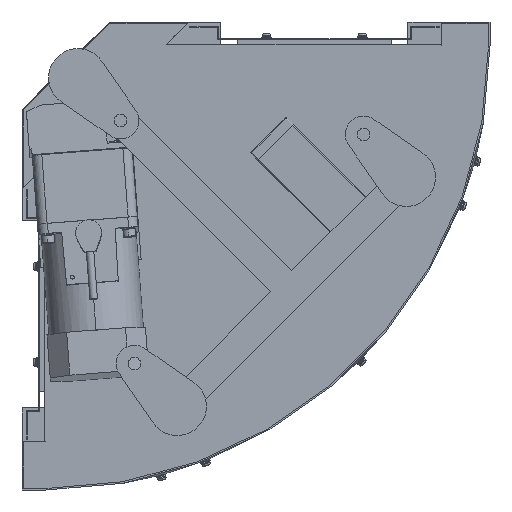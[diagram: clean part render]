
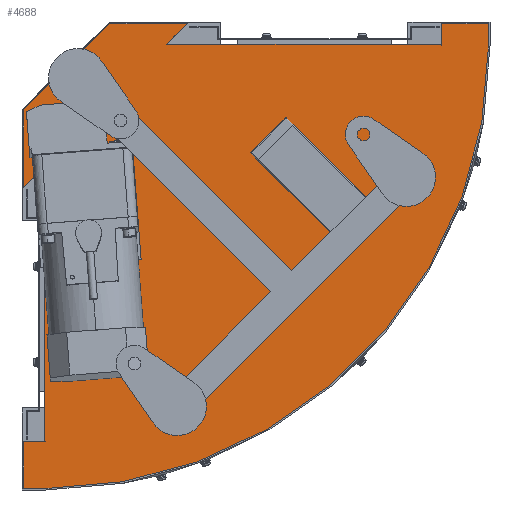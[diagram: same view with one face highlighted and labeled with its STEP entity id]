
A CAD part, front view. The second image highlights one B-rep face of the part: STEP entity #4688.
In plain terms, the highlighted planar face has unit normal (0, -1, 0).
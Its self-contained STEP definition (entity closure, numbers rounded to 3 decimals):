
#347 = CARTESIAN_POINT ( 'NONE',  ( 412.496, -145.7, 1.846 ) ) ;
#628 = AXIS2_PLACEMENT_3D ( 'NONE', #19235, #19555, #16721 ) ;
#645 = EDGE_CURVE ( 'NONE', #24916, #4860, #16226, .T. ) ;
#769 = DIRECTION ( 'NONE',  ( 0., 0., -1. ) ) ;
#879 = DIRECTION ( 'NONE',  ( 0., -1., 0. ) ) ;
#909 = CARTESIAN_POINT ( 'NONE',  ( -23.4, -145.7, -412.5 ) ) ;
#1216 = VERTEX_POINT ( 'NONE', #15780 ) ;
#1312 = DIRECTION ( 'NONE',  ( 0., 0., 1. ) ) ;
#1425 = VERTEX_POINT ( 'NONE', #22696 ) ;
#1851 = CARTESIAN_POINT ( 'NONE',  ( 125.898, -145.7, 1.798 ) ) ;
#1863 = ORIENTED_EDGE ( 'NONE', *, *, #20459, .T. ) ;
#2083 = ORIENTED_EDGE ( 'NONE', *, *, #8326, .T. ) ;
#2667 = EDGE_CURVE ( 'NONE', #28639, #7340, #14838, .T. ) ;
#2740 = DIRECTION ( 'NONE',  ( 0., 0., -1. ) ) ;
#3028 = EDGE_CURVE ( 'NONE', #17337, #5665, #5403, .T. ) ;
#3130 = LINE ( 'NONE', #26881, #33322 ) ;
#3379 = CARTESIAN_POINT ( 'NONE',  ( -23.4, -145.7, -412.5 ) ) ;
#3763 = VERTEX_POINT ( 'NONE', #11473 ) ;
#3852 = DIRECTION ( 'NONE',  ( 0., 0., 1. ) ) ;
#3960 = CARTESIAN_POINT ( 'NONE',  ( 412.5, -145.7, 0. ) ) ;
#4324 = CARTESIAN_POINT ( 'NONE',  ( 66.663, -145.7, 23.4 ) ) ;
#4441 = EDGE_CURVE ( 'NONE', #25769, #28639, #20479, .T. ) ;
#4688 = ADVANCED_FACE ( 'NONE', ( #11851 ), #26586, .F. ) ;
#4860 = VERTEX_POINT ( 'NONE', #28813 ) ;
#4905 = DIRECTION ( 'NONE',  ( 1., 0., 0. ) ) ;
#5084 = DIRECTION ( 'NONE',  ( 1., 0., 0. ) ) ;
#5369 = CARTESIAN_POINT ( 'NONE',  ( -1.846, -145.7, -412.496 ) ) ;
#5403 = LINE ( 'NONE', #20667, #24197 ) ;
#5505 = DIRECTION ( 'NONE',  ( 0., 0., 1. ) ) ;
#5665 = VERTEX_POINT ( 'NONE', #4324 ) ;
#5909 = CARTESIAN_POINT ( 'NONE',  ( -23.4, -145.7, -147.5 ) ) ;
#6204 = EDGE_CURVE ( 'NONE', #19441, #25171, #18752, .T. ) ;
#6382 = DIRECTION ( 'NONE',  ( 0., 0., 1. ) ) ;
#6511 = ORIENTED_EDGE ( 'NONE', *, *, #3028, .T. ) ;
#6830 = CARTESIAN_POINT ( 'NONE',  ( -23.4, -145.7, -461.5 ) ) ;
#6948 = ORIENTED_EDGE ( 'NONE', *, *, #33574, .T. ) ;
#7055 = ORIENTED_EDGE ( 'NONE', *, *, #23222, .T. ) ;
#7131 = DIRECTION ( 'NONE',  ( 0., 0., 1. ) ) ;
#7340 = VERTEX_POINT ( 'NONE', #3960 ) ;
#7793 = CARTESIAN_POINT ( 'NONE',  ( 412.5, -145.7, 23.4 ) ) ;
#8317 = EDGE_CURVE ( 'NONE', #1216, #11137, #13192, .T. ) ;
#8326 = EDGE_CURVE ( 'NONE', #1216, #10064, #15661, .T. ) ;
#8410 = ORIENTED_EDGE ( 'NONE', *, *, #25993, .T. ) ;
#9029 = ORIENTED_EDGE ( 'NONE', *, *, #10300, .F. ) ;
#9273 = VECTOR ( 'NONE', #5084, 1000. ) ;
#9331 = DIRECTION ( 'NONE',  ( 0., 1., 0. ) ) ;
#9826 = DIRECTION ( 'NONE',  ( 0., 0., -1. ) ) ;
#9884 = DIRECTION ( 'NONE',  ( 0.707, 0., 0.707 ) ) ;
#10064 = VERTEX_POINT ( 'NONE', #909 ) ;
#10300 = EDGE_CURVE ( 'NONE', #11137, #1425, #22855, .T. ) ;
#10735 = DIRECTION ( 'NONE',  ( -1., 0., 0. ) ) ;
#10831 = DIRECTION ( 'NONE',  ( 0., 1., 0. ) ) ;
#11137 = VERTEX_POINT ( 'NONE', #5369 ) ;
#11473 = CARTESIAN_POINT ( 'NONE',  ( -23.4, -145.7, -66.663 ) ) ;
#11575 = DIRECTION ( 'NONE',  ( -0.707, 0., -0.707 ) ) ;
#11682 = LINE ( 'NONE', #20889, #17861 ) ;
#11851 = FACE_OUTER_BOUND ( 'NONE', #28688, .T. ) ;
#12560 = EDGE_CURVE ( 'NONE', #3763, #12720, #11682, .T. ) ;
#12720 = VERTEX_POINT ( 'NONE', #5909 ) ;
#13192 = CIRCLE ( 'NONE', #18475, 412.5 ) ;
#13612 = LINE ( 'NONE', #3379, #19333 ) ;
#14279 = ORIENTED_EDGE ( 'NONE', *, *, #645, .T. ) ;
#14687 = DIRECTION ( 'NONE',  ( -1., 0., 0. ) ) ;
#14838 = CIRCLE ( 'NONE', #628, 412.5 ) ;
#15020 = VECTOR ( 'NONE', #9884, 1000. ) ;
#15193 = VECTOR ( 'NONE', #19210, 1000. ) ;
#15380 = EDGE_CURVE ( 'NONE', #25171, #7340, #19399, .T. ) ;
#15661 = LINE ( 'NONE', #22223, #32341 ) ;
#15780 = CARTESIAN_POINT ( 'NONE',  ( 0., -145.7, -412.5 ) ) ;
#15849 = LINE ( 'NONE', #17794, #15020 ) ;
#15920 = VECTOR ( 'NONE', #7131, 1000. ) ;
#16226 = LINE ( 'NONE', #18030, #9273 ) ;
#16688 = AXIS2_PLACEMENT_3D ( 'NONE', #19250, #879, #1312 ) ;
#16721 = DIRECTION ( 'NONE',  ( 0., 0., 1. ) ) ;
#17337 = VERTEX_POINT ( 'NONE', #28800 ) ;
#17513 = CARTESIAN_POINT ( 'NONE',  ( 412.5, -145.7, 23.4 ) ) ;
#17794 = CARTESIAN_POINT ( 'NONE',  ( -23.4, -145.7, -147.5 ) ) ;
#17802 = EDGE_CURVE ( 'NONE', #4860, #18845, #30279, .T. ) ;
#17861 = VECTOR ( 'NONE', #2740, 1000. ) ;
#18030 = CARTESIAN_POINT ( 'NONE',  ( -23.4, -145.7, -461.5 ) ) ;
#18097 = CARTESIAN_POINT ( 'NONE',  ( 461.5, -145.7, 23.4 ) ) ;
#18148 = LINE ( 'NONE', #23539, #31152 ) ;
#18169 = ORIENTED_EDGE ( 'NONE', *, *, #17802, .T. ) ;
#18211 = DIRECTION ( 'NONE',  ( -1., 0., 0. ) ) ;
#18475 = AXIS2_PLACEMENT_3D ( 'NONE', #22113, #9331, #3852 ) ;
#18752 = LINE ( 'NONE', #18097, #31746 ) ;
#18845 = VERTEX_POINT ( 'NONE', #23485 ) ;
#19210 = DIRECTION ( 'NONE',  ( 0.707, 0., 0.707 ) ) ;
#19235 = CARTESIAN_POINT ( 'NONE',  ( 0., -145.7, 0. ) ) ;
#19250 = CARTESIAN_POINT ( 'NONE',  ( 0., -145.7, 0. ) ) ;
#19333 = VECTOR ( 'NONE', #769, 1000. ) ;
#19399 = LINE ( 'NONE', #17513, #30401 ) ;
#19441 = VERTEX_POINT ( 'NONE', #30213 ) ;
#19555 = DIRECTION ( 'NONE',  ( 0., 1., 0. ) ) ;
#19667 = VECTOR ( 'NONE', #4905, 1000. ) ;
#19932 = ORIENTED_EDGE ( 'NONE', *, *, #15380, .T. ) ;
#20459 = EDGE_CURVE ( 'NONE', #5665, #3763, #3130, .T. ) ;
#20479 = LINE ( 'NONE', #1851, #19667 ) ;
#20667 = CARTESIAN_POINT ( 'NONE',  ( 147.5, -145.7, 23.4 ) ) ;
#20732 = AXIS2_PLACEMENT_3D ( 'NONE', #23957, #10831, #6382 ) ;
#20889 = CARTESIAN_POINT ( 'NONE',  ( -23.4, -145.7, -66.663 ) ) ;
#21027 = EDGE_CURVE ( 'NONE', #25769, #17337, #21327, .T. ) ;
#21327 = LINE ( 'NONE', #24757, #15193 ) ;
#21481 = ORIENTED_EDGE ( 'NONE', *, *, #8317, .F. ) ;
#22113 = CARTESIAN_POINT ( 'NONE',  ( 0., -145.7, 0. ) ) ;
#22223 = CARTESIAN_POINT ( 'NONE',  ( 0., -145.7, -412.5 ) ) ;
#22310 = ORIENTED_EDGE ( 'NONE', *, *, #4441, .F. ) ;
#22550 = ORIENTED_EDGE ( 'NONE', *, *, #6204, .T. ) ;
#22696 = CARTESIAN_POINT ( 'NONE',  ( -1.798, -145.7, -125.898 ) ) ;
#22855 = LINE ( 'NONE', #28132, #15920 ) ;
#23222 = EDGE_CURVE ( 'NONE', #12720, #1425, #15849, .T. ) ;
#23485 = CARTESIAN_POINT ( 'NONE',  ( 461.5, -145.7, 0. ) ) ;
#23539 = CARTESIAN_POINT ( 'NONE',  ( 461.5, -145.7, 0. ) ) ;
#23957 = CARTESIAN_POINT ( 'NONE',  ( 0., -145.7, 0. ) ) ;
#24175 = ORIENTED_EDGE ( 'NONE', *, *, #21027, .T. ) ;
#24197 = VECTOR ( 'NONE', #10735, 1000. ) ;
#24757 = CARTESIAN_POINT ( 'NONE',  ( -23.4, -145.7, -147.5 ) ) ;
#24916 = VERTEX_POINT ( 'NONE', #6830 ) ;
#25108 = ORIENTED_EDGE ( 'NONE', *, *, #12560, .T. ) ;
#25171 = VERTEX_POINT ( 'NONE', #7793 ) ;
#25769 = VERTEX_POINT ( 'NONE', #30157 ) ;
#25993 = EDGE_CURVE ( 'NONE', #18845, #19441, #18148, .T. ) ;
#26586 = PLANE ( 'NONE',  #20732 ) ;
#26881 = CARTESIAN_POINT ( 'NONE',  ( 66.663, -145.7, 23.4 ) ) ;
#28132 = CARTESIAN_POINT ( 'NONE',  ( -1.846, -145.7, -412.496 ) ) ;
#28570 = ORIENTED_EDGE ( 'NONE', *, *, #2667, .F. ) ;
#28639 = VERTEX_POINT ( 'NONE', #347 ) ;
#28688 = EDGE_LOOP ( 'NONE', ( #28570, #22310, #24175, #6511, #1863, #25108, #7055, #9029, #21481, #2083, #6948, #14279, #18169, #8410, #22550, #19932 ) ) ;
#28800 = CARTESIAN_POINT ( 'NONE',  ( 147.5, -145.7, 23.4 ) ) ;
#28813 = CARTESIAN_POINT ( 'NONE',  ( 0., -145.7, -461.5 ) ) ;
#30157 = CARTESIAN_POINT ( 'NONE',  ( 125.898, -145.7, 1.798 ) ) ;
#30213 = CARTESIAN_POINT ( 'NONE',  ( 461.5, -145.7, 23.4 ) ) ;
#30279 = CIRCLE ( 'NONE', #16688, 461.5 ) ;
#30401 = VECTOR ( 'NONE', #9826, 1000. ) ;
#31152 = VECTOR ( 'NONE', #5505, 1000. ) ;
#31746 = VECTOR ( 'NONE', #18211, 1000. ) ;
#32341 = VECTOR ( 'NONE', #14687, 1000. ) ;
#33322 = VECTOR ( 'NONE', #11575, 1000. ) ;
#33574 = EDGE_CURVE ( 'NONE', #10064, #24916, #13612, .T. ) ;
